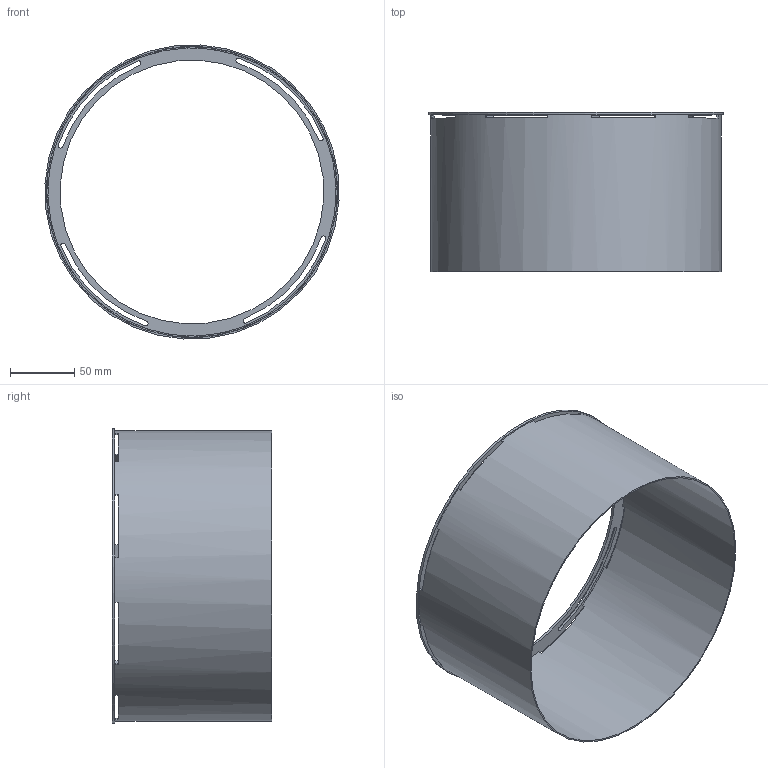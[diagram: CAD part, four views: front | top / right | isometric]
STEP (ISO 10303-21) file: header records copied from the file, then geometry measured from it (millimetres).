
FILE_DESCRIPTION(/* description */ ('Unknown'),/* implementation_level */ '2;1');
FILE_NAME(/* name */ 'TOPHAT- M',/* time_stamp */ '2022-08-22T08:28:49+02:00',/* author */ ('Unknown'),/* organization */ ('Unknown'),/* preprocessor_version */ 'ST-DEVELOPER v18.102',/* originating_system */ 'Solid Edge',/* authorisation */ 'Unknown');
FILE_SCHEMA (('AUTOMOTIVE_DESIGN {1 0 10303 214 3 1 1}'));
Length unit declared in the file: millimetre
Products named in the file (1): 11431126 TOPHAT- M
Bounding box: 228.79 x 124 x 228.79 mm (x, y, z)
Volume: 98906.1 mm3; surface area: 190400.8 mm2
Topology: 2 solids, 2 shells, 123 faces, 361 edges, 241 vertices
Faces by surface type: plane 87, cylinder 36
Full cylindrical faces by diameter (mm): 205.3 x1, 224.4 x1, 226.4 x1, 229.2 x1
Entity records: 4186 total; most frequent: DIRECTION 740, CARTESIAN_POINT 716, ORIENTED_EDGE 708, EDGE_CURVE 354, AXIS2_PLACEMENT_3D 262, VERTEX_POINT 238, LINE 216, VECTOR 216
